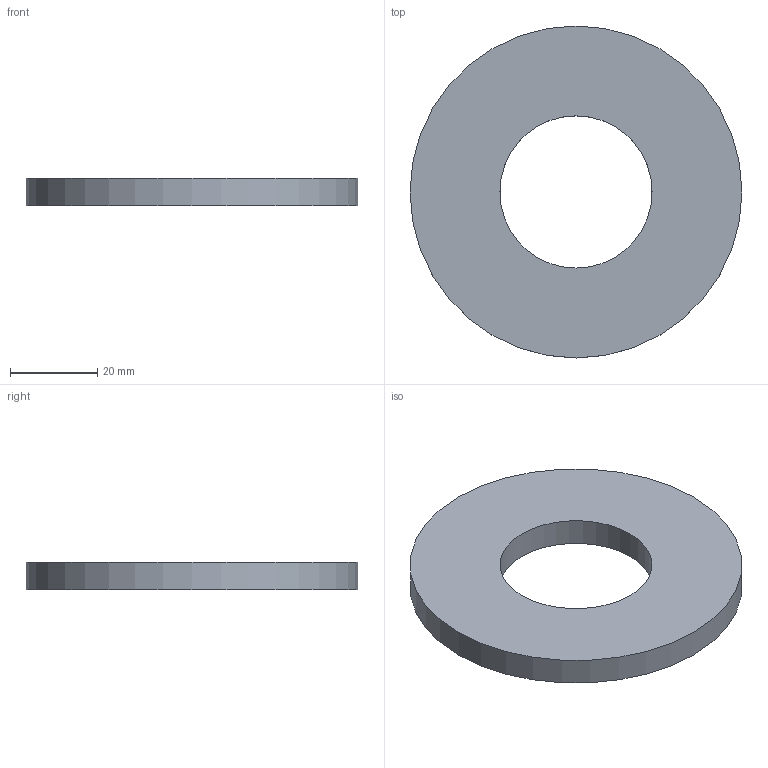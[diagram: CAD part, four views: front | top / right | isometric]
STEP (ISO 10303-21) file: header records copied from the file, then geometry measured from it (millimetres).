
FILE_DESCRIPTION(/* description */ (''),/* implementation_level */ '2;1');
FILE_NAME(/* name */ 'C:\001_Work\Designs\HLW\HLW-1.250.stp',/* time_stamp */ '2015-09-04T08:54:51-04:00',/* author */ ('rramoutar'),/* organization */ ('Mason Industries Inc.'),/* preprocessor_version */ 'ST-DEVELOPER v15.6',/* originating_system */ 'Autodesk Inventor 2015',/* authorisation */ '');
FILE_SCHEMA (('AUTOMOTIVE_DESIGN { 1 0 10303 214 3 1 1 }'));
Length unit declared in the file: inch
Products named in the file (1): HLW-1.250
Bounding box: 76.2 x 76.2 x 6.35 mm (x, y, z)
Volume: 22875.1 mm3; surface area: 9421.6 mm2
Topology: 1 solids, 1 shells, 4 faces, 6 edges, 4 vertices
Faces by surface type: cylinder 2, plane 2
Full cylindrical faces by diameter (mm): 34.925 x1, 76.2 x1
Entity records: 114 total; most frequent: DIRECTION 18, CARTESIAN_POINT 13, AXIS2_PLACEMENT_3D 9, EDGE_LOOP 8, ORIENTED_EDGE 8, FACE_BOUND 4, FACE_OUTER_BOUND 4, CIRCLE 4
